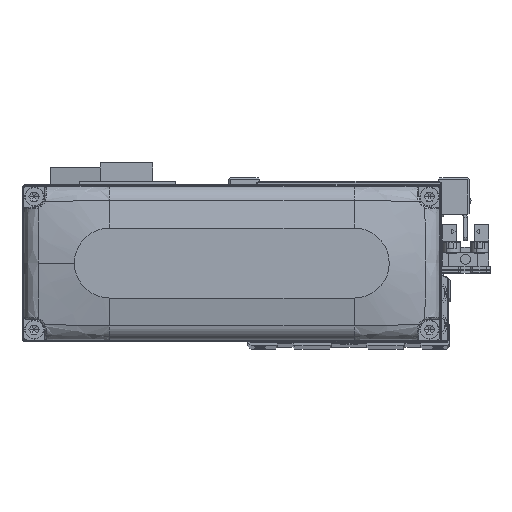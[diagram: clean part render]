
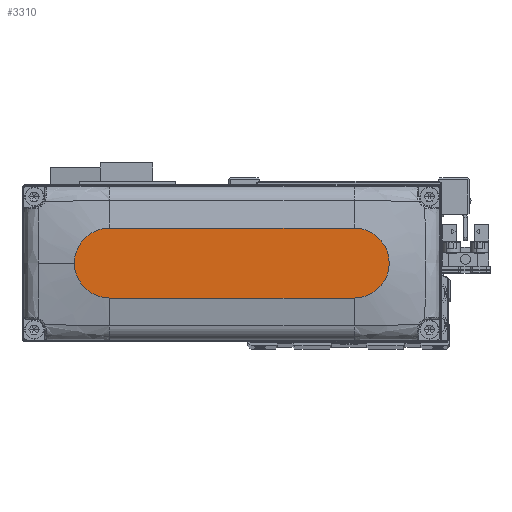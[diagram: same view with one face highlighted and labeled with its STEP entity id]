
A CAD part, top view. The second image highlights one B-rep face of the part: STEP entity #3310.
In plain terms, the highlighted planar face has unit normal (0, 0, 1).
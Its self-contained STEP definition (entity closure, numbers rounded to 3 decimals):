
#2473 = VERTEX_POINT ( 'NONE', #9717 ) ;
#2496 = DIRECTION ( 'NONE',  ( 0., 0., 1. ) ) ;
#2640 = DIRECTION ( 'NONE',  ( 1., 0., 0. ) ) ;
#2669 = AXIS2_PLACEMENT_3D ( 'NONE', #22972, #34994, #7991 ) ;
#3083 = LINE ( 'NONE', #15106, #21116 ) ;
#3310 = ADVANCED_FACE ( 'NONE', ( #35753 ), #11964, .T. ) ;
#4379 = CIRCLE ( 'NONE', #26424, 10. ) ;
#5811 = ORIENTED_EDGE ( 'NONE', *, *, #22839, .T. ) ;
#6534 = VERTEX_POINT ( 'NONE', #8755 ) ;
#7525 = EDGE_CURVE ( 'NONE', #6534, #2473, #3083, .T. ) ;
#7991 = DIRECTION ( 'NONE',  ( 1., 0., 0. ) ) ;
#8009 = ORIENTED_EDGE ( 'NONE', *, *, #16113, .T. ) ;
#8755 = CARTESIAN_POINT ( 'NONE',  ( 35., 10., 28. ) ) ;
#8813 = LINE ( 'NONE', #20842, #23138 ) ;
#9010 = DIRECTION ( 'NONE',  ( 1., 0., 0. ) ) ;
#9476 = CARTESIAN_POINT ( 'NONE',  ( 35., -10., 28. ) ) ;
#9717 = CARTESIAN_POINT ( 'NONE',  ( -35., 10., 28. ) ) ;
#9986 = VERTEX_POINT ( 'NONE', #19153 ) ;
#11964 = PLANE ( 'NONE',  #23805 ) ;
#14514 = DIRECTION ( 'NONE',  ( 1., 0., 0. ) ) ;
#15106 = CARTESIAN_POINT ( 'NONE',  ( -35., 10., 28. ) ) ;
#16113 = EDGE_CURVE ( 'NONE', #16235, #6534, #34574, .T. ) ;
#16235 = VERTEX_POINT ( 'NONE', #27108 ) ;
#17367 = EDGE_LOOP ( 'NONE', ( #17563, #22313, #5811, #35110, #8009 ) ) ;
#17563 = ORIENTED_EDGE ( 'NONE', *, *, #7525, .T. ) ;
#17594 = AXIS2_PLACEMENT_3D ( 'NONE', #29497, #2496, #14514 ) ;
#17641 = CARTESIAN_POINT ( 'NONE',  ( 35., 0., 28. ) ) ;
#19153 = CARTESIAN_POINT ( 'NONE',  ( -35., -10., 28. ) ) ;
#19689 = CIRCLE ( 'NONE', #2669, 10. ) ;
#20842 = CARTESIAN_POINT ( 'NONE',  ( -35., -10., 28. ) ) ;
#21116 = VECTOR ( 'NONE', #27132, 1000. ) ;
#22313 = ORIENTED_EDGE ( 'NONE', *, *, #30079, .T. ) ;
#22839 = EDGE_CURVE ( 'NONE', #9986, #29027, #8813, .T. ) ;
#22972 = CARTESIAN_POINT ( 'NONE',  ( -35., 0., 28. ) ) ;
#23138 = VECTOR ( 'NONE', #32856, 1000. ) ;
#23805 = AXIS2_PLACEMENT_3D ( 'NONE', #23994, #36017, #9010 ) ;
#23994 = CARTESIAN_POINT ( 'NONE',  ( 0., 0., 28. ) ) ;
#26424 = AXIS2_PLACEMENT_3D ( 'NONE', #17641, #29649, #2640 ) ;
#27108 = CARTESIAN_POINT ( 'NONE',  ( 45., 0., 28. ) ) ;
#27132 = DIRECTION ( 'NONE',  ( -1., 0., 0. ) ) ;
#29027 = VERTEX_POINT ( 'NONE', #9476 ) ;
#29497 = CARTESIAN_POINT ( 'NONE',  ( 35., 0., 28. ) ) ;
#29649 = DIRECTION ( 'NONE',  ( 0., 0., 1. ) ) ;
#30079 = EDGE_CURVE ( 'NONE', #2473, #9986, #19689, .T. ) ;
#32856 = DIRECTION ( 'NONE',  ( 1., 0., 0. ) ) ;
#34574 = CIRCLE ( 'NONE', #17594, 10. ) ;
#34994 = DIRECTION ( 'NONE',  ( 0., 0., 1. ) ) ;
#35110 = ORIENTED_EDGE ( 'NONE', *, *, #38638, .T. ) ;
#35753 = FACE_OUTER_BOUND ( 'NONE', #17367, .T. ) ;
#36017 = DIRECTION ( 'NONE',  ( 0., 0., 1. ) ) ;
#38638 = EDGE_CURVE ( 'NONE', #29027, #16235, #4379, .T. ) ;
